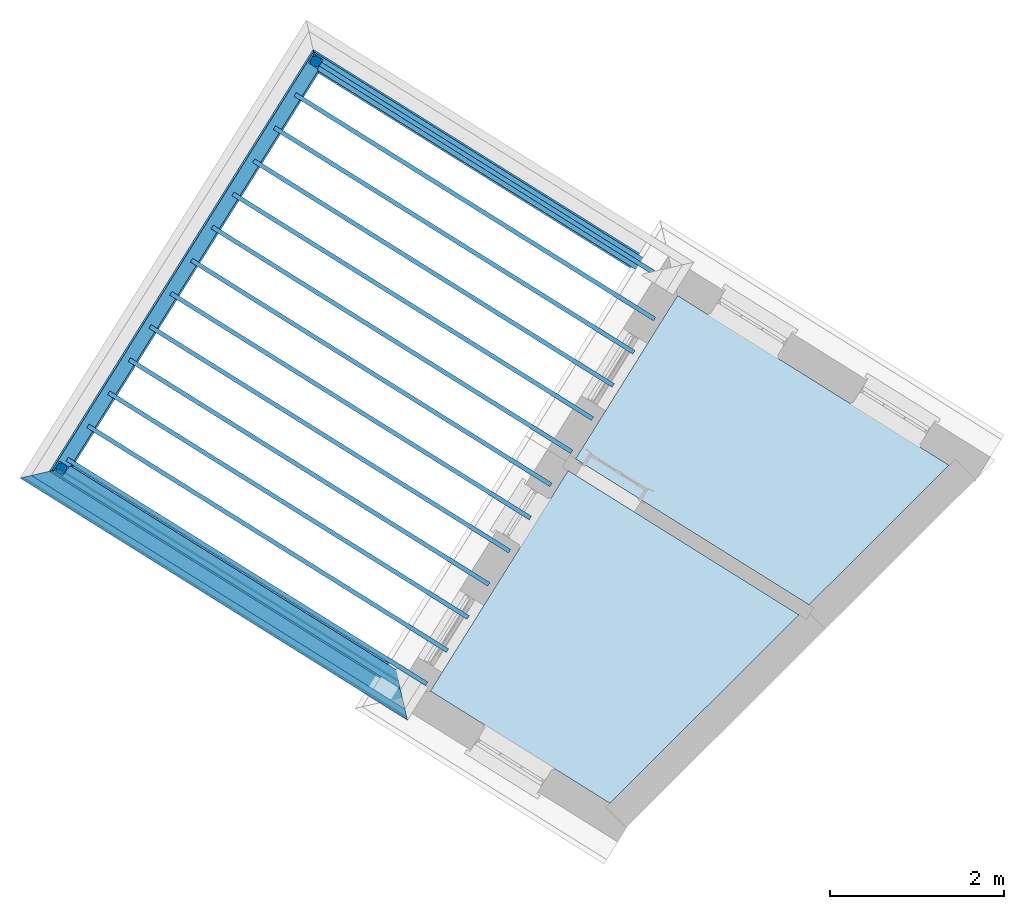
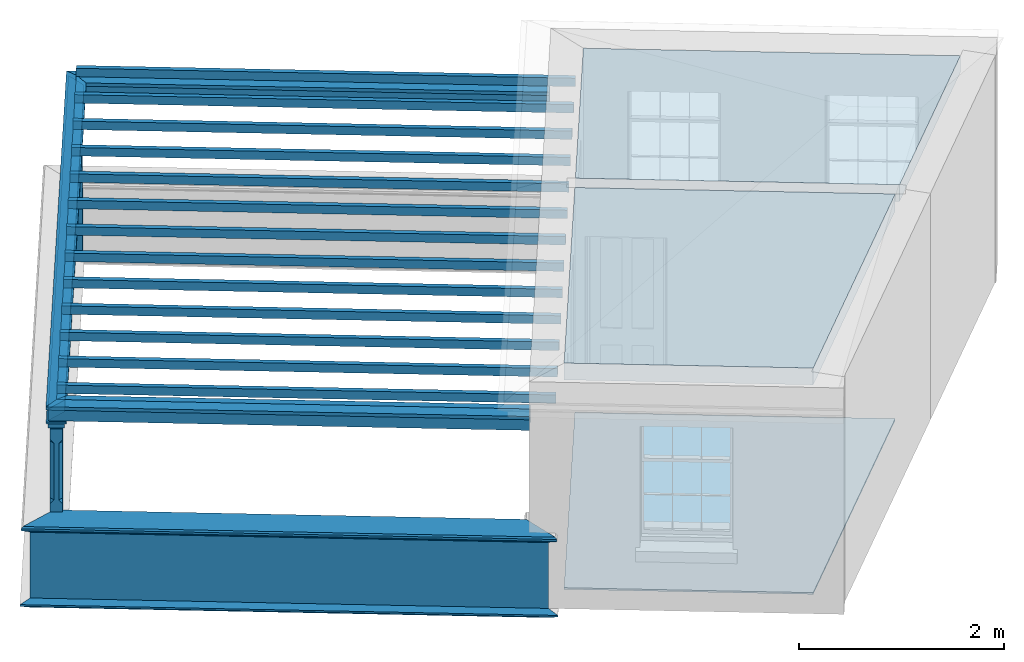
# One storey, part 1 of 6: 19 beams, 3 slabs, 3 walls, 2 columns.
"""IFC4 building model written with IfcOpenShell, lengths in metres."""

from ifc_helpers import new_model, si_unit, frame, origin, origin_with_axes, place, context, subcontext, project, spatial, polyline, outline, extrude, clip, halfspace, faceted_brep, source, transform, mapped, material_profile, profile_set, profile_usage, type_object, type_shapes, element, save


model = new_model("IFC4")

# Units and contexts
model_context = context("Model", 3, world=origin_with_axes())
body_context = subcontext(model_context, "Body", "Model", "MODEL_VIEW")
ifc_project = project(units=[si_unit("PLANEANGLEUNIT", "RADIAN"), si_unit("MASSUNIT", "GRAM", prefix="KILO"), si_unit("FORCEUNIT", "NEWTON", prefix="KILO"), si_unit("LENGTHUNIT", "METRE"), si_unit("AREAUNIT", "SQUARE_METRE"), si_unit("VOLUMEUNIT", "CUBIC_METRE")], contexts=[model_context, model_context])

# Sites, building, storey
site_1_placement = place(None, origin_with_axes())
site_1 = spatial("IfcSite", under=ifc_project, at=site_1_placement, Name="Tamar")
site_2_placement = place(site_1_placement, origin_with_axes())
site_2 = spatial("IfcSite", under=site_1, at=site_2_placement, Name="Site plot-4", CompositionType="ELEMENT")
building_placement = place(None, origin_with_axes())
building = spatial("IfcBuilding", under=site_2, at=building_placement, Name="Building plot-4", CompositionType="ELEMENT")
storey_placement = place(None, frame((0.0, 0.0, 31.4), z_axis=(0.0, 0.0, 1.0), x_axis=(1.0, 0.0, 0.0)))
storey = spatial("IfcBuildingStorey", under=building, at=storey_placement, Name="plot-4 2", CompositionType="ELEMENT", Elevation=31.4)

# Columns
column_type = type_object("IfcColumnType", Name="pergola post", PredefinedType="NOTDEFINED")
shared_shape = source(origin(), body_context, "Body", "Brep", [
    faceted_brep([(0.0246, -0.0615, 1.72), (0.0615, -0.0246, 1.72), (0.0615, -0.0615, 1.766667), (0.0615, -0.0246, 1.044444), (0.0246, -0.0615, 1.044444), (0.0615, 0.0246, 1.72), (0.0615, 0.0615, 1.766667), (-0.0246, -0.0615, 1.72), (-0.0615, -0.0615, 1.766667), (-0.0246, -0.0615, 1.044444), (0.0615, -0.0615, 0.997778), (0.0615, 0.0246, 1.044444), (0.0246, 0.0615, 1.72), (0.0615, 0.0615, 1.891111), (0.0615, -0.0615, 1.891111), (-0.0615, -0.0615, 1.891111), (-0.0615, -0.0246, 1.72), (-0.0615, -0.0246, 1.044444), (-0.0615, -0.0615, 0.997778), (0.0615, 0.0615, 0.997778), (0.0246, 0.0615, 1.044444), (-0.0246, 0.0615, 1.72), (-0.0615, 0.0615, 1.766667), (0.04305, 0.04305, 1.891111), (0.04305, -0.04305, 1.891111), (-0.0615, 0.0615, 1.891111), (-0.04305, -0.04305, 1.891111), (-0.0615, 0.0246, 1.72), (-0.0615, 0.0246, 1.044444), (0.0615, -0.0615, 0.053333), (-0.0615, -0.0615, 0.053333), (0.0615, 0.0615, 0.053333), (-0.0246, 0.0615, 1.044444), (-0.04305, 0.04305, 1.891111), (0.04305, 0.04305, 1.914444), (0.04305, -0.04305, 1.914444), (-0.04305, -0.04305, 1.914444), (-0.0615, 0.0615, 0.997778), (-0.0615, 0.0615, 0.053333), (-0.04305, -0.04305, 0.053333), (0.04305, -0.04305, 0.053333), (0.04305, 0.04305, 0.053333), (-0.04305, 0.04305, 1.914444), (0.07995, 0.07995, 1.914444), (0.07995, -0.07995, 1.914444), (-0.07995, -0.07995, 1.914444), (-0.04305, 0.04305, 0.053333), (-0.04305, -0.04305, 0.0), (0.04305, -0.04305, 0.0), (0.04305, 0.04305, 0.0), (-0.07995, 0.07995, 1.914444), (0.07995, 0.07995, 1.976667), (0.07995, -0.07995, 1.976667), (-0.07995, -0.07995, 1.976667), (-0.04305, 0.04305, 0.0), (-0.07995, 0.07995, 1.976667), (0.0984, 0.0984, 1.976667), (0.0984, -0.0984, 1.976667), (-0.0984, -0.0984, 1.976667), (-0.0984, 0.0984, 1.976667), (0.0984, 0.0984, 2.0), (0.0984, -0.0984, 2.0), (-0.0984, -0.0984, 2.0), (-0.0984, 0.0984, 2.0)], [[[0, 1, 2]], [[3, 1, 0, 4]], [[1, 5, 6, 2]], [[7, 0, 2, 8]], [[4, 0, 7, 9]], [[3, 4, 10]], [[1, 3, 11, 5]], [[5, 12, 6]], [[13, 14, 2, 6]], [[15, 8, 2, 14]], [[8, 16, 7]], [[9, 7, 16, 17]], [[9, 18, 10, 4]], [[3, 10, 19, 11]], [[20, 12, 5, 11]], [[21, 22, 6, 12]], [[14, 13, 23, 24]], [[13, 6, 22, 25]], [[25, 22, 8, 15]], [[26, 15, 14, 24]], [[16, 8, 22, 27]], [[27, 28, 17, 16]], [[17, 18, 9]], [[29, 10, 18, 30]], [[31, 19, 10, 29]], [[20, 11, 19]], [[12, 20, 32, 21]], [[21, 27, 22]], [[33, 23, 13, 25]], [[23, 34, 35, 24]], [[26, 33, 25, 15]], [[36, 26, 24, 35]], [[28, 27, 21, 32]], [[17, 28, 37, 18]], [[38, 30, 18, 37]], [[29, 30, 39, 40]], [[31, 38, 37, 19]], [[40, 41, 31, 29]], [[32, 20, 19, 37]], [[33, 42, 34, 23]], [[43, 44, 35, 34]], [[42, 33, 26, 36]], [[36, 35, 44, 45]], [[28, 32, 37]], [[46, 39, 30, 38]], [[39, 47, 48, 40]], [[46, 38, 31, 41]], [[49, 41, 40, 48]], [[43, 34, 42, 50]], [[43, 51, 52, 44]], [[45, 50, 42, 36]], [[53, 45, 44, 52]], [[46, 54, 47, 39]], [[54, 46, 41, 49]], [[50, 55, 51, 43]], [[56, 57, 52, 51]], [[55, 50, 45, 53]], [[53, 52, 57, 58]], [[56, 51, 55, 59]], [[56, 60, 61, 57]], [[58, 59, 55, 53]], [[62, 58, 57, 61]], [[59, 63, 60, 56]], [[63, 62, 61, 60]], [[58, 62, 63, 59]], [[47, 54, 49, 48]]]),
])
type_shapes(column_type, [shared_shape])
for number, where, z_axis, x_axis, name in (
    (1, (220.76030713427, 286.167999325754, 0.0), (0.0, 0.0, 1.0), (-0.53002650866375, -0.847981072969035, 0.0), "pergola post"),
    (2, (217.830342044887, 281.480394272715, 0.0), (0.0, 0.0, 1.0), (0.847981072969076, -0.530026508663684, 0.0), "pergola post"),
):
    element("IfcColumn", number, at=place(storey_placement, frame(where, z_axis=z_axis, x_axis=x_axis)), inside=storey, type_object=column_type, Name=name, context=body_context, shape_type="MappedRepresentation", body=[
        mapped(shared_shape, transform((0.0, 0.0, 0.0), scale=1.0)),
    ])

# Beams
ifc_material_profile_1 = material_profile(None, outline(polyline([(-0.08, -0.7), (0.08, -0.7), (0.08, -0.56), (-0.08, -0.56), (-0.08, -0.7)])))
ifc_profile_set_1 = profile_set([ifc_material_profile_1])
ifc_profile_usage_1 = profile_usage(ifc_profile_set_1)
beam_type_1 = type_object("IfcBeamType", Name="pergola beam_0", PredefinedType="NOTDEFINED", material=ifc_profile_set_1)
beam_1_placement = place(storey_placement, frame((219.912326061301, 286.698025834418, 2.7), z_axis=(0.847981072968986, -0.530026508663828, 0.0), x_axis=(0.530026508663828, 0.847981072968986, 0.0)))
element("IfcBeam", 3, at=beam_1_placement, inside=storey, type_object=beam_type_1, material=ifc_profile_usage_1, Name="pergola beam_0", context=body_context, shape_type="Clipping", body=[
    clip(clip(extrude(outline(polyline([(-0.08, -0.7), (0.08, -0.7), (0.08, -0.56), (-0.08, -0.56), (-0.08, -0.7)])), origin_with_axes(), (0.0, 0.0, 1.0), 6.63049319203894), halfspace(frame((0.0, 0.0, 5.63049319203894), z_axis=(5.26783817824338e-15, 0.0, -1.0), x_axis=(0.0, 1.0, 0.0)), True)), halfspace(frame((0.0, 0.0, 1.0), z_axis=(-0.707106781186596, 0.0, -0.707106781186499), x_axis=(0.0, 1.0, 0.0)), False)),
])
ifc_profile_usage_2 = profile_usage(ifc_profile_set_1)
beam_2_placement = place(storey_placement, frame((217.300315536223, 280.632413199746, 2.7), z_axis=(0.530026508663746, 0.847981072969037, 0.0), x_axis=(-0.847981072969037, 0.530026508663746, 0.0)))
element("IfcBeam", 4, at=beam_2_placement, inside=storey, type_object=beam_type_1, material=ifc_profile_usage_2, Name="pergola beam_0", context=body_context, shape_type="Clipping", body=[
    clip(clip(extrude(outline(polyline([(-0.08, -0.7), (0.08, -0.7), (0.08, -0.56), (-0.08, -0.56), (-0.08, -0.7)])), origin_with_axes(), (0.0, 0.0, 1.0), 7.52795952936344), halfspace(frame((0.0, 0.0, 6.52795952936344), z_axis=(0.707106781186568, 0.0, -0.707106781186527), x_axis=(0.0, 1.0, 0.0)), True)), halfspace(frame((0.0, 0.0, 1.0), z_axis=(-0.707106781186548, 0.0, -0.707106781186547), x_axis=(0.0, 1.0, 0.0)), False)),
])
ifc_profile_usage_3 = profile_usage(ifc_profile_set_1)
beam_3_placement = place(storey_placement, frame((222.604893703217, 278.496083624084, 2.7), z_axis=(-0.847981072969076, 0.530026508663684, 0.0), x_axis=(-0.530026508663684, -0.847981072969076, 0.0)))
element("IfcBeam", 5, at=beam_3_placement, inside=storey, type_object=beam_type_1, material=ifc_profile_usage_3, Name="pergola beam_0", context=body_context, shape_type="Clipping", body=[
    clip(clip(extrude(outline(polyline([(-0.08, -0.7), (0.08, -0.7), (0.08, -0.56), (-0.08, -0.56), (-0.08, -0.7)])), origin_with_axes(), (0.0, 0.0, 1.0), 6.63049319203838), halfspace(frame((0.0, 0.0, 5.63049319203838), z_axis=(0.707106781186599, 0.0, -0.707106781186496), x_axis=(0.0, 1.0, 0.0)), True)), halfspace(frame((0.0, 0.0, 1.0), z_axis=(2.48077634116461e-14, 0.0, -1.0), x_axis=(0.0, 1.0, 0.0)), False)),
])
ifc_material_profile_2 = material_profile(None, outline(polyline([(0.0, -0.5), (-0.1, -0.52), (-0.1, -0.56), (0.1, -0.56), (0.1, -0.52), (0.0, -0.5)])))
ifc_profile_set_2 = profile_set([ifc_material_profile_2])
ifc_profile_usage_4 = profile_usage(ifc_profile_set_2)
beam_type_2 = type_object("IfcBeamType", Name="pergola beam_1", PredefinedType="NOTDEFINED", material=ifc_profile_set_2)
beam_4_placement = place(storey_placement, frame((219.912326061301, 286.698025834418, 2.7), z_axis=(0.847981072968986, -0.530026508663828, 0.0), x_axis=(0.530026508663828, 0.847981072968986, 0.0)))
element("IfcBeam", 6, at=beam_4_placement, inside=storey, type_object=beam_type_2, material=ifc_profile_usage_4, Name="pergola beam_1", context=body_context, shape_type="Clipping", body=[
    clip(clip(extrude(outline(polyline([(0.0, -0.5), (-0.1, -0.52), (-0.1, -0.56), (0.1, -0.56), (0.1, -0.52), (0.0, -0.5)])), origin_with_axes(), (0.0, 0.0, 1.0), 6.63049319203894), halfspace(frame((0.0, 0.0, 5.63049319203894), z_axis=(5.26783817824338e-15, 0.0, -1.0), x_axis=(0.0, 1.0, 0.0)), True)), halfspace(frame((0.0, 0.0, 1.0), z_axis=(-0.707106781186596, 0.0, -0.707106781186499), x_axis=(0.0, 1.0, 0.0)), False)),
])
ifc_profile_usage_5 = profile_usage(ifc_profile_set_2)
beam_5_placement = place(storey_placement, frame((217.300315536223, 280.632413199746, 2.7), z_axis=(0.530026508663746, 0.847981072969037, 0.0), x_axis=(-0.847981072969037, 0.530026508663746, 0.0)))
element("IfcBeam", 7, at=beam_5_placement, inside=storey, type_object=beam_type_2, material=ifc_profile_usage_5, Name="pergola beam_1", context=body_context, shape_type="Clipping", body=[
    clip(clip(extrude(outline(polyline([(0.0, -0.5), (-0.1, -0.52), (-0.1, -0.56), (0.1, -0.56), (0.1, -0.52), (0.0, -0.5)])), origin_with_axes(), (0.0, 0.0, 1.0), 7.52795952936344), halfspace(frame((0.0, 0.0, 6.52795952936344), z_axis=(0.707106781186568, 0.0, -0.707106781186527), x_axis=(0.0, 1.0, 0.0)), True)), halfspace(frame((0.0, 0.0, 1.0), z_axis=(-0.707106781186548, 0.0, -0.707106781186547), x_axis=(0.0, 1.0, 0.0)), False)),
])
ifc_profile_usage_6 = profile_usage(ifc_profile_set_2)
beam_6_placement = place(storey_placement, frame((222.604893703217, 278.496083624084, 2.7), z_axis=(-0.847981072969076, 0.530026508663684, 0.0), x_axis=(-0.530026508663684, -0.847981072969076, 0.0)))
element("IfcBeam", 8, at=beam_6_placement, inside=storey, type_object=beam_type_2, material=ifc_profile_usage_6, Name="pergola beam_1", context=body_context, shape_type="Clipping", body=[
    clip(clip(extrude(outline(polyline([(0.0, -0.5), (-0.1, -0.52), (-0.1, -0.56), (0.1, -0.56), (0.1, -0.52), (0.0, -0.5)])), origin_with_axes(), (0.0, 0.0, 1.0), 6.63049319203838), halfspace(frame((0.0, 0.0, 5.63049319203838), z_axis=(0.707106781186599, 0.0, -0.707106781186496), x_axis=(0.0, 1.0, 0.0)), True)), halfspace(frame((0.0, 0.0, 1.0), z_axis=(2.48077634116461e-14, 0.0, -1.0), x_axis=(0.0, 1.0, 0.0)), False)),
])
beam_7_placement = place(storey_placement, frame((220.773557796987, 286.189198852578, 2.2)))
element("IfcBeam", 9, at=beam_7_placement, inside=storey, Name="My Beam", ObjectType="Beam", context=body_context, shape_type="SweptSolid", body=[
    extrude(outline(polyline([(0.0, 0.0), (-0.0265013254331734, -0.0423990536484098), (4.11206452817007, -2.62918982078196), (4.13856585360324, -2.58679076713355), (0.0, 0.0)])), origin_with_axes(), (0.0, 0.0, 1.0), 0.1),
])
beam_8_placement = place(storey_placement, frame((220.535045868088, 285.807607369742, 2.2)))
element("IfcBeam", 10, at=beam_8_placement, inside=storey, Name="My Beam", ObjectType="Beam", context=body_context, shape_type="SweptSolid", body=[
    extrude(outline(polyline([(0.0, 0.0), (-0.0265013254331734, -0.0423990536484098), (4.11206452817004, -2.6291898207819), (4.13856585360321, -2.58679076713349), (0.0, 0.0)])), origin_with_axes(), (0.0, 0.0, 1.0), 0.1),
])
beam_9_placement = place(storey_placement, frame((220.296533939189, 285.426015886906, 2.2)))
element("IfcBeam", 11, at=beam_9_placement, inside=storey, Name="My Beam", ObjectType="Beam", context=body_context, shape_type="SweptSolid", body=[
    extrude(outline(polyline([(0.0, 0.0), (-0.0265013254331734, -0.0423990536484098), (4.11206452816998, -2.6291898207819), (4.13856585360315, -2.58679076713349), (0.0, 0.0)])), origin_with_axes(), (0.0, 0.0, 1.0), 0.1),
])
for number, where, name in (
    (12, (220.058022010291, 285.04442440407, 2.2), "My Beam"),
    (13, (219.819510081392, 284.662832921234, 2.2), "My Beam"),
):
    element("IfcBeam", number, at=place(storey_placement, frame(where)), inside=storey, Name=name, ObjectType="Beam", context=body_context, shape_type="SweptSolid", body=[
        extrude(outline(polyline([(0.0, 0.0), (-0.0265013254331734, -0.0423990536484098), (4.11206452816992, -2.6291898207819), (4.1385658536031, -2.58679076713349), (0.0, 0.0)])), origin_with_axes(), (0.0, 0.0, 1.0), 0.1),
    ])
beam_10_placement = place(storey_placement, frame((219.580998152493, 284.281241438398, 2.2)))
element("IfcBeam", 14, at=beam_10_placement, inside=storey, Name="My Beam", ObjectType="Beam", context=body_context, shape_type="SweptSolid", body=[
    extrude(outline(polyline([(0.0, 0.0), (-0.0265013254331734, -0.0423990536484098), (4.11206452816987, -2.6291898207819), (4.13856585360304, -2.58679076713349), (0.0, 0.0)])), origin_with_axes(), (0.0, 0.0, 1.0), 0.1),
])
beam_11_placement = place(storey_placement, frame((219.342486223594, 283.899649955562, 2.2)))
element("IfcBeam", 15, at=beam_11_placement, inside=storey, Name="My Beam", ObjectType="Beam", context=body_context, shape_type="SweptSolid", body=[
    extrude(outline(polyline([(0.0, 0.0), (-0.0265013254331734, -0.0423990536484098), (4.11206452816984, -2.62918982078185), (4.13856585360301, -2.58679076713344), (0.0, 0.0)])), origin_with_axes(), (0.0, 0.0, 1.0), 0.1),
])
beam_12_placement = place(storey_placement, frame((219.103974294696, 283.518058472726, 2.2)))
element("IfcBeam", 16, at=beam_12_placement, inside=storey, Name="My Beam", ObjectType="Beam", context=body_context, shape_type="SweptSolid", body=[
    extrude(outline(polyline([(0.0, 0.0), (-0.0265013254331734, -0.0423990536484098), (4.11206452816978, -2.62918982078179), (4.13856585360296, -2.58679076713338), (0.0, 0.0)])), origin_with_axes(), (0.0, 0.0, 1.0), 0.1),
])
beam_13_placement = place(storey_placement, frame((218.865462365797, 283.13646698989, 2.2)))
element("IfcBeam", 17, at=beam_13_placement, inside=storey, Name="My Beam", ObjectType="Beam", context=body_context, shape_type="SweptSolid", body=[
    extrude(outline(polyline([(0.0, 0.0), (-0.0265013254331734, -0.0423990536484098), (4.11206452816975, -2.62918982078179), (4.13856585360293, -2.58679076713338), (0.0, 0.0)])), origin_with_axes(), (0.0, 0.0, 1.0), 0.1),
])
beam_14_placement = place(storey_placement, frame((218.626950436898, 282.754875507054, 2.2)))
element("IfcBeam", 18, at=beam_14_placement, inside=storey, Name="My Beam", ObjectType="Beam", context=body_context, shape_type="SweptSolid", body=[
    extrude(outline(polyline([(0.0, 0.0), (-0.0265013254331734, -0.0423990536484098), (4.11206452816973, -2.62918982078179), (4.1385658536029, -2.58679076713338), (0.0, 0.0)])), origin_with_axes(), (0.0, 0.0, 1.0), 0.1),
])
beam_15_placement = place(storey_placement, frame((218.388438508, 282.373284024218, 2.2)))
element("IfcBeam", 19, at=beam_15_placement, inside=storey, Name="My Beam", ObjectType="Beam", context=body_context, shape_type="SweptSolid", body=[
    extrude(outline(polyline([(0.0, 0.0), (-0.0265013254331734, -0.0423990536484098), (4.11206452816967, -2.62918982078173), (4.13856585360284, -2.58679076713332), (0.0, 0.0)])), origin_with_axes(), (0.0, 0.0, 1.0), 0.1),
])
beam_16_placement = place(storey_placement, frame((218.149926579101, 281.991692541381, 2.2)))
element("IfcBeam", 20, at=beam_16_placement, inside=storey, Name="My Beam", ObjectType="Beam", context=body_context, shape_type="SweptSolid", body=[
    extrude(outline(polyline([(0.0, 0.0), (-0.0265013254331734, -0.0423990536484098), (4.11206452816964, -2.62918982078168), (4.13856585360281, -2.58679076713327), (0.0, 0.0)])), origin_with_axes(), (0.0, 0.0, 1.0), 0.1),
])
beam_17_placement = place(storey_placement, frame((217.911414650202, 281.610101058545, 2.2)))
element("IfcBeam", 21, at=beam_17_placement, inside=storey, Name="My Beam", ObjectType="Beam", context=body_context, shape_type="SweptSolid", body=[
    extrude(outline(polyline([(0.0, 0.0), (-0.0265013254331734, -0.0423990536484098), (4.11206452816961, -2.62918982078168), (4.13856585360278, -2.58679076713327), (0.0, 0.0)])), origin_with_axes(), (0.0, 0.0, 1.0), 0.1),
])

# Slabs
slab_1_placement = place(storey_placement, frame((226.438338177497, 279.911492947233, 2.5)))
element("IfcSlab", 22, at=slab_1_placement, inside=storey, Name="My Slab", ObjectType="Slab", PredefinedType="FLOOR", context=body_context, shape_type="SweptSolid", body=[
    extrude(outline(polyline([(0.0, 0.0), (1.61213438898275, 1.60548165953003), (-1.51402882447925, 3.55947500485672), (-2.68851033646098, 1.68044051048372), (0.0, 0.0)])), origin_with_axes(), (0.0, 0.0, 1.0), 0.2),
])
slab_2_placement = place(storey_placement, frame((223.665023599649, 281.456256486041, 2.5)))
element("IfcSlab", 23, at=slab_2_placement, inside=storey, Name="My Slab", ObjectType="Slab", PredefinedType="FLOOR", context=body_context, shape_type="SweptSolid", body=[
    extrude(outline(polyline([(0.0, 0.0), (-1.58587509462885, -2.53721661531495), (0.480081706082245, -3.82853301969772), (2.65690931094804, -1.66068844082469), (0.0, 0.0)])), origin_with_axes(), (0.0, 0.0, 1.0), 0.2),
])
slab_3_placement = place(storey_placement, frame((223.665023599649, 281.456256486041, 0.0)))
element("IfcSlab", 24, at=slab_3_placement, inside=storey, Name="My Slab", ObjectType="Slab", PredefinedType="FLOOR", context=body_context, shape_type="SweptSolid", body=[
    extrude(outline(polyline([(0.0, 0.0), (-1.58587509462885, -2.53721661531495), (0.480081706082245, -3.82853301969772), (2.65690931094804, -1.66068844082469), (0.0, 0.0)])), origin_with_axes(), (0.0, 0.0, 1.0), 0.02),
])

# Walls
ifc_material_profile_3 = material_profile(None, outline(polyline([(0.25, 0.0), (0.25, 0.795), (0.09, 0.795), (0.09, 0.02), (-0.08, 0.02), (-0.08, 0.0), (0.25, 0.0)])))
ifc_profile_set_3 = profile_set([ifc_material_profile_3])
ifc_profile_usage_7 = profile_usage(ifc_profile_set_3)
wall_type_1 = type_object("IfcWallType", Name="parapet_0", PredefinedType="PARAPET", material=ifc_profile_set_3)
wall_1_placement = place(storey_placement, frame((222.554014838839, 278.527885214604, 0.0), z_axis=(-0.847981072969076, 0.530026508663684, 0.0), x_axis=(-0.530026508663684, -0.847981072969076, 0.0)))
element("IfcWall", 25, at=wall_1_placement, inside=storey, type_object=wall_type_1, material=ifc_profile_usage_7, Name="parapet_0", context=body_context, shape_type="Clipping", body=[
    clip(clip(extrude(outline(polyline([(0.25, 0.0), (0.25, 0.795), (0.09, 0.795), (0.09, 0.02), (-0.08, 0.02), (-0.08, 0.0), (0.25, 0.0)])), origin_with_axes(), (0.0, 0.0, 1.0), 6.57049319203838), halfspace(frame((0.0, 0.0, 5.57049319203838), z_axis=(0.707106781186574, 0.0, -0.707106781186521), x_axis=(0.0, 1.0, 0.0)), True)), halfspace(frame((0.0, 0.0, 1.0), z_axis=(-0.70710678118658, 0.0, -0.707106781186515), x_axis=(0.0, 1.0, 0.0)), False)),
])
ifc_material_profile_4 = material_profile(None, outline(polyline([(0.265, 0.795), (0.268, 0.807), (0.274, 0.816), (0.283, 0.822), (0.295, 0.825), (0.295, 0.84), (0.305, 0.84), (0.317, 0.842), (0.326, 0.849), (0.333, 0.858), (0.335, 0.87), (0.333, 0.882), (0.326, 0.891), (0.317, 0.898), (0.305, 0.9), (0.035, 0.9), (0.023, 0.898), (0.014, 0.891), (0.007, 0.882), (0.005, 0.87), (0.007, 0.858), (0.014, 0.849), (0.023, 0.842), (0.035, 0.84), (0.045, 0.84), (0.045, 0.825), (0.057, 0.822), (0.066, 0.816), (0.072, 0.807), (0.075, 0.795), (0.265, 0.795)])))
ifc_profile_set_4 = profile_set([ifc_material_profile_4])
ifc_profile_usage_8 = profile_usage(ifc_profile_set_4)
wall_type_2 = type_object("IfcWallType", Name="parapet_1", PredefinedType="PARAPET", material=ifc_profile_set_4)
wall_2_placement = place(storey_placement, frame((222.554014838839, 278.527885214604, 0.0), z_axis=(-0.847981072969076, 0.530026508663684, 0.0), x_axis=(-0.530026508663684, -0.847981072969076, 0.0)))
element("IfcWall", 26, at=wall_2_placement, inside=storey, type_object=wall_type_2, material=ifc_profile_usage_8, Name="parapet_1", context=body_context, shape_type="Clipping", body=[
    clip(clip(extrude(outline(polyline([(0.265, 0.795), (0.268, 0.807), (0.274, 0.816), (0.283, 0.822), (0.295, 0.825), (0.295, 0.84), (0.305, 0.84), (0.317, 0.842), (0.326, 0.849), (0.333, 0.858), (0.335, 0.87), (0.333, 0.882), (0.326, 0.891), (0.317, 0.898), (0.305, 0.9), (0.035, 0.9), (0.023, 0.898), (0.014, 0.891), (0.007, 0.882), (0.005, 0.87), (0.007, 0.858), (0.014, 0.849), (0.023, 0.842), (0.035, 0.84), (0.045, 0.84), (0.045, 0.825), (0.057, 0.822), (0.066, 0.816), (0.072, 0.807), (0.075, 0.795), (0.265, 0.795)])), origin_with_axes(), (0.0, 0.0, 1.0), 6.57049319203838), halfspace(frame((0.0, 0.0, 5.57049319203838), z_axis=(0.707106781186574, 0.0, -0.707106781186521), x_axis=(0.0, 1.0, 0.0)), True)), halfspace(frame((0.0, 0.0, 1.0), z_axis=(-0.70710678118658, 0.0, -0.707106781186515), x_axis=(0.0, 1.0, 0.0)), False)),
])
ifc_material_profile_5 = material_profile(None, outline(polyline([(0.25, -0.1), (0.265, -0.1), (0.265, -0.085), (0.278, -0.084), (0.289, -0.081), (0.301, -0.074), (0.309, -0.065), (0.315, -0.055), (0.324, -0.044), (0.334, -0.038), (0.345, -0.035), (0.345, -0.015), (0.25, 0.0), (0.25, -0.1)])))
ifc_profile_set_5 = profile_set([ifc_material_profile_5])
ifc_profile_usage_9 = profile_usage(ifc_profile_set_5)
wall_type_3 = type_object("IfcWallType", Name="parapet_2", PredefinedType="PARAPET", material=ifc_profile_set_5)
wall_3_placement = place(storey_placement, frame((222.554014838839, 278.527885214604, 0.0), z_axis=(-0.847981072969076, 0.530026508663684, 0.0), x_axis=(-0.530026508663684, -0.847981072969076, 0.0)))
element("IfcWall", 27, at=wall_3_placement, inside=storey, type_object=wall_type_3, material=ifc_profile_usage_9, Name="parapet_2", context=body_context, shape_type="Clipping", body=[
    clip(clip(extrude(outline(polyline([(0.25, -0.1), (0.265, -0.1), (0.265, -0.085), (0.278, -0.084), (0.289, -0.081), (0.301, -0.074), (0.309, -0.065), (0.315, -0.055), (0.324, -0.044), (0.334, -0.038), (0.345, -0.035), (0.345, -0.015), (0.25, 0.0), (0.25, -0.1)])), origin_with_axes(), (0.0, 0.0, 1.0), 6.57049319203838), halfspace(frame((0.0, 0.0, 5.57049319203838), z_axis=(0.707106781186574, 0.0, -0.707106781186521), x_axis=(0.0, 1.0, 0.0)), True)), halfspace(frame((0.0, 0.0, 1.0), z_axis=(-0.70710678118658, 0.0, -0.707106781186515), x_axis=(0.0, 1.0, 0.0)), False)),
])

save(model, "model.ifc")
